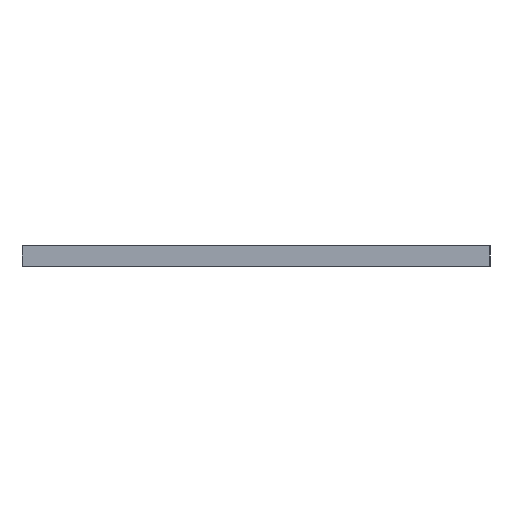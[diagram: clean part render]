
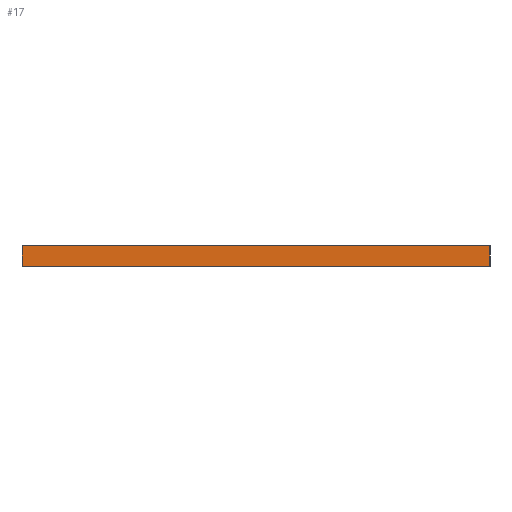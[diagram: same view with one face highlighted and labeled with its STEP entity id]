
A CAD part, left-side view. The second image highlights one B-rep face of the part: STEP entity #17.
In plain terms, the highlighted planar face has unit normal (-1, 0, 0).
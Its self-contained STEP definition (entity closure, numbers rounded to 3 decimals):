
#17 = ADVANCED_FACE('',(#18),#32,.F.);
#18 = FACE_BOUND('',#19,.F.);
#19 = EDGE_LOOP('',(#20,#55,#83,#111));
#20 = ORIENTED_EDGE('',*,*,#21,.T.);
#21 = EDGE_CURVE('',#22,#24,#26,.T.);
#22 = VERTEX_POINT('',#23);
#23 = CARTESIAN_POINT('',(-2.2,32.2,3.5));
#24 = VERTEX_POINT('',#25);
#25 = CARTESIAN_POINT('',(-2.2,32.2,5.));
#26 = SURFACE_CURVE('',#27,(#31,#43),.PCURVE_S1.);
#27 = LINE('',#28,#29);
#28 = CARTESIAN_POINT('',(-2.2,32.2,3.5));
#29 = VECTOR('',#30,1.);
#30 = DIRECTION('',(0.,0.,1.));
#31 = PCURVE('',#32,#37);
#32 = PLANE('',#33);
#33 = AXIS2_PLACEMENT_3D('',#34,#35,#36);
#34 = CARTESIAN_POINT('',(-2.2,32.2,3.5));
#35 = DIRECTION('',(1.,0.,-0.));
#36 = DIRECTION('',(0.,-1.,0.));
#37 = DEFINITIONAL_REPRESENTATION('',(#38),#42);
#38 = LINE('',#39,#40);
#39 = CARTESIAN_POINT('',(0.,0.));
#40 = VECTOR('',#41,1.);
#41 = DIRECTION('',(0.,-1.));
#42 = ( GEOMETRIC_REPRESENTATION_CONTEXT(2) 
PARAMETRIC_REPRESENTATION_CONTEXT() REPRESENTATION_CONTEXT('2D SPACE',''
  ) );
#43 = PCURVE('',#44,#49);
#44 = PLANE('',#45);
#45 = AXIS2_PLACEMENT_3D('',#46,#47,#48);
#46 = CARTESIAN_POINT('',(42.2,32.2,3.5));
#47 = DIRECTION('',(0.,-1.,0.));
#48 = DIRECTION('',(-1.,0.,0.));
#49 = DEFINITIONAL_REPRESENTATION('',(#50),#54);
#50 = LINE('',#51,#52);
#51 = CARTESIAN_POINT('',(44.4,0.));
#52 = VECTOR('',#53,1.);
#53 = DIRECTION('',(0.,-1.));
#54 = ( GEOMETRIC_REPRESENTATION_CONTEXT(2) 
PARAMETRIC_REPRESENTATION_CONTEXT() REPRESENTATION_CONTEXT('2D SPACE',''
  ) );
#55 = ORIENTED_EDGE('',*,*,#56,.T.);
#56 = EDGE_CURVE('',#24,#57,#59,.T.);
#57 = VERTEX_POINT('',#58);
#58 = CARTESIAN_POINT('',(-2.2,-2.2,5.));
#59 = SURFACE_CURVE('',#60,(#64,#71),.PCURVE_S1.);
#60 = LINE('',#61,#62);
#61 = CARTESIAN_POINT('',(-2.2,32.2,5.));
#62 = VECTOR('',#63,1.);
#63 = DIRECTION('',(0.,-1.,0.));
#64 = PCURVE('',#32,#65);
#65 = DEFINITIONAL_REPRESENTATION('',(#66),#70);
#66 = LINE('',#67,#68);
#67 = CARTESIAN_POINT('',(0.,-1.5));
#68 = VECTOR('',#69,1.);
#69 = DIRECTION('',(1.,0.));
#70 = ( GEOMETRIC_REPRESENTATION_CONTEXT(2) 
PARAMETRIC_REPRESENTATION_CONTEXT() REPRESENTATION_CONTEXT('2D SPACE',''
  ) );
#71 = PCURVE('',#72,#77);
#72 = PLANE('',#73);
#73 = AXIS2_PLACEMENT_3D('',#74,#75,#76);
#74 = CARTESIAN_POINT('',(20.,15.,5.));
#75 = DIRECTION('',(0.,0.,1.));
#76 = DIRECTION('',(1.,0.,-0.));
#77 = DEFINITIONAL_REPRESENTATION('',(#78),#82);
#78 = LINE('',#79,#80);
#79 = CARTESIAN_POINT('',(-22.2,17.2));
#80 = VECTOR('',#81,1.);
#81 = DIRECTION('',(0.,-1.));
#82 = ( GEOMETRIC_REPRESENTATION_CONTEXT(2) 
PARAMETRIC_REPRESENTATION_CONTEXT() REPRESENTATION_CONTEXT('2D SPACE',''
  ) );
#83 = ORIENTED_EDGE('',*,*,#84,.F.);
#84 = EDGE_CURVE('',#85,#57,#87,.T.);
#85 = VERTEX_POINT('',#86);
#86 = CARTESIAN_POINT('',(-2.2,-2.2,3.5));
#87 = SURFACE_CURVE('',#88,(#92,#99),.PCURVE_S1.);
#88 = LINE('',#89,#90);
#89 = CARTESIAN_POINT('',(-2.2,-2.2,3.5));
#90 = VECTOR('',#91,1.);
#91 = DIRECTION('',(0.,0.,1.));
#92 = PCURVE('',#32,#93);
#93 = DEFINITIONAL_REPRESENTATION('',(#94),#98);
#94 = LINE('',#95,#96);
#95 = CARTESIAN_POINT('',(34.4,0.));
#96 = VECTOR('',#97,1.);
#97 = DIRECTION('',(0.,-1.));
#98 = ( GEOMETRIC_REPRESENTATION_CONTEXT(2) 
PARAMETRIC_REPRESENTATION_CONTEXT() REPRESENTATION_CONTEXT('2D SPACE',''
  ) );
#99 = PCURVE('',#100,#105);
#100 = PLANE('',#101);
#101 = AXIS2_PLACEMENT_3D('',#102,#103,#104);
#102 = CARTESIAN_POINT('',(-2.2,-2.2,3.5));
#103 = DIRECTION('',(0.,1.,0.));
#104 = DIRECTION('',(1.,0.,0.));
#105 = DEFINITIONAL_REPRESENTATION('',(#106),#110);
#106 = LINE('',#107,#108);
#107 = CARTESIAN_POINT('',(0.,0.));
#108 = VECTOR('',#109,1.);
#109 = DIRECTION('',(0.,-1.));
#110 = ( GEOMETRIC_REPRESENTATION_CONTEXT(2) 
PARAMETRIC_REPRESENTATION_CONTEXT() REPRESENTATION_CONTEXT('2D SPACE',''
  ) );
#111 = ORIENTED_EDGE('',*,*,#112,.F.);
#112 = EDGE_CURVE('',#22,#85,#113,.T.);
#113 = SURFACE_CURVE('',#114,(#118,#125),.PCURVE_S1.);
#114 = LINE('',#115,#116);
#115 = CARTESIAN_POINT('',(-2.2,32.2,3.5));
#116 = VECTOR('',#117,1.);
#117 = DIRECTION('',(0.,-1.,0.));
#118 = PCURVE('',#32,#119);
#119 = DEFINITIONAL_REPRESENTATION('',(#120),#124);
#120 = LINE('',#121,#122);
#121 = CARTESIAN_POINT('',(0.,0.));
#122 = VECTOR('',#123,1.);
#123 = DIRECTION('',(1.,0.));
#124 = ( GEOMETRIC_REPRESENTATION_CONTEXT(2) 
PARAMETRIC_REPRESENTATION_CONTEXT() REPRESENTATION_CONTEXT('2D SPACE',''
  ) );
#125 = PCURVE('',#126,#131);
#126 = PLANE('',#127);
#127 = AXIS2_PLACEMENT_3D('',#128,#129,#130);
#128 = CARTESIAN_POINT('',(20.,15.,3.5));
#129 = DIRECTION('',(0.,0.,1.));
#130 = DIRECTION('',(1.,0.,-0.));
#131 = DEFINITIONAL_REPRESENTATION('',(#132),#136);
#132 = LINE('',#133,#134);
#133 = CARTESIAN_POINT('',(-22.2,17.2));
#134 = VECTOR('',#135,1.);
#135 = DIRECTION('',(0.,-1.));
#136 = ( GEOMETRIC_REPRESENTATION_CONTEXT(2) 
PARAMETRIC_REPRESENTATION_CONTEXT() REPRESENTATION_CONTEXT('2D SPACE',''
  ) );
